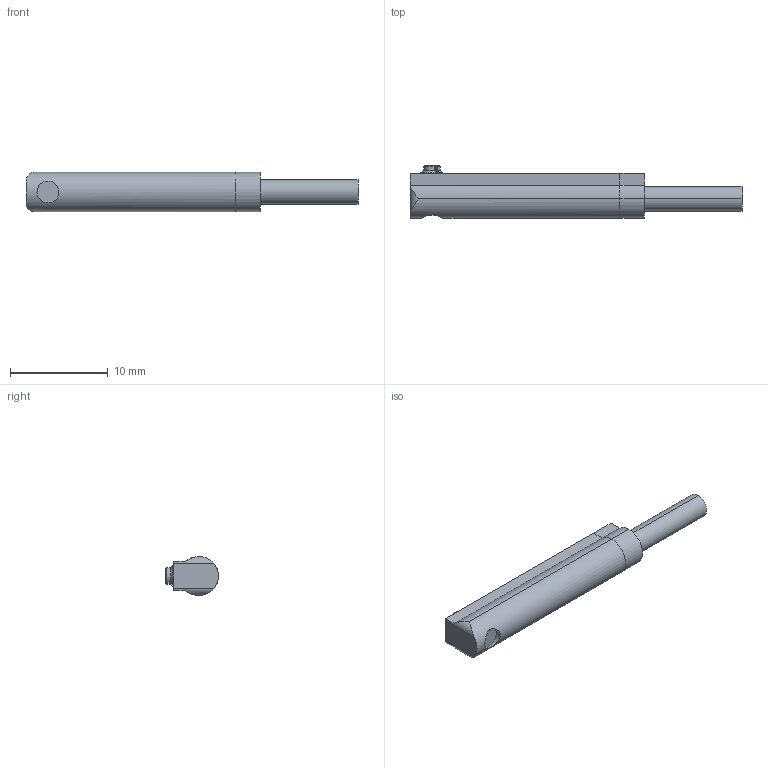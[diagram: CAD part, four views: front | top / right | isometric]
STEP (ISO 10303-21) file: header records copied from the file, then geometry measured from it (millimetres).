
FILE_DESCRIPTION (( 'STEP AP214' ), '1' );
FILE_NAME ('BMC眻諉堤盄.STEP', '2025-06-11T02:29:16', ( '' ), ( '' ), 'SwSTEP 2.0', 'SolidWorks 2022', '' );
FILE_SCHEMA (( 'AUTOMOTIVE_DESIGN' ));
Length unit declared in the file: millimetre
Products named in the file (1): BMC直接出线
Bounding box: 34 x 5.4 x 4 mm (x, y, z)
Volume: 404.8 mm3; surface area: 497.6 mm2
Topology: 2 solids, 2 shells, 50 faces, 120 edges, 78 vertices
Faces by surface type: plane 24, cylinder 20, cone 6
Entity records: 1565 total; most frequent: CARTESIAN_POINT 343, DIRECTION 248, ORIENTED_EDGE 240, EDGE_CURVE 120, AXIS2_PLACEMENT_3D 91, VERTEX_POINT 78, LINE 66, VECTOR 66
